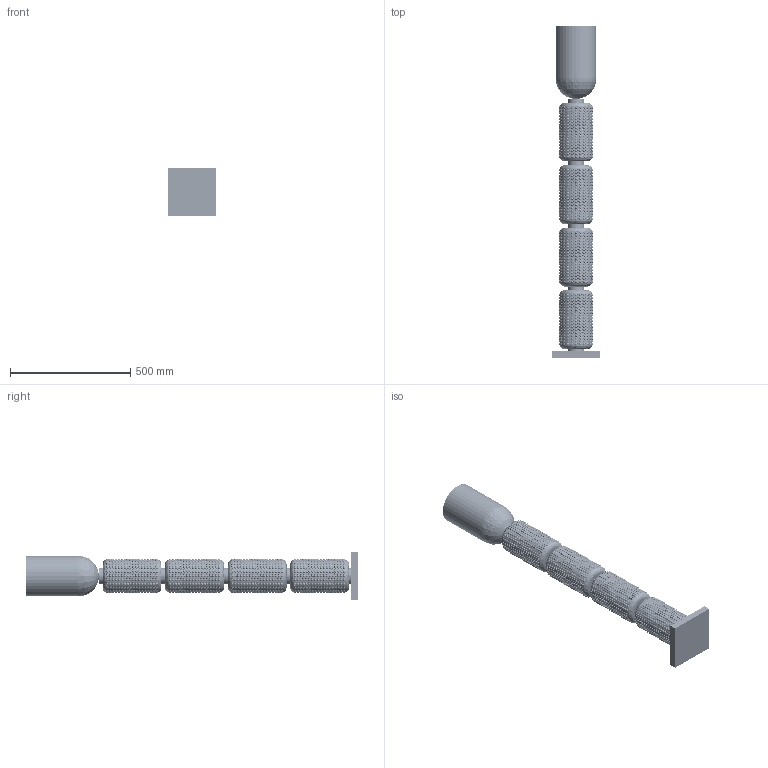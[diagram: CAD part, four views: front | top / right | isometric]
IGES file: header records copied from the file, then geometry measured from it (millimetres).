
Start section: SolidWorks IGES file using analytic representation for surfaces
Global section: file name: F:\燠隴矨\3D\2026-4\Ficupala Floor Lamp.IGS,15; native system: HSolidWorks 2022; preprocessor: SolidWorks 2022; author: MyPC; date: 260415.090843; units: millimetre
Bounding box: 200 x 1380 x 200 mm (x, y, z)
Surface area: 1773042.2 mm2 (no closed solid volume)
Topology: 0 solids, 0 shells, 7014 faces, 29214 edges, 16494 vertices
Faces by surface type: revolution 6942, bspline 72
